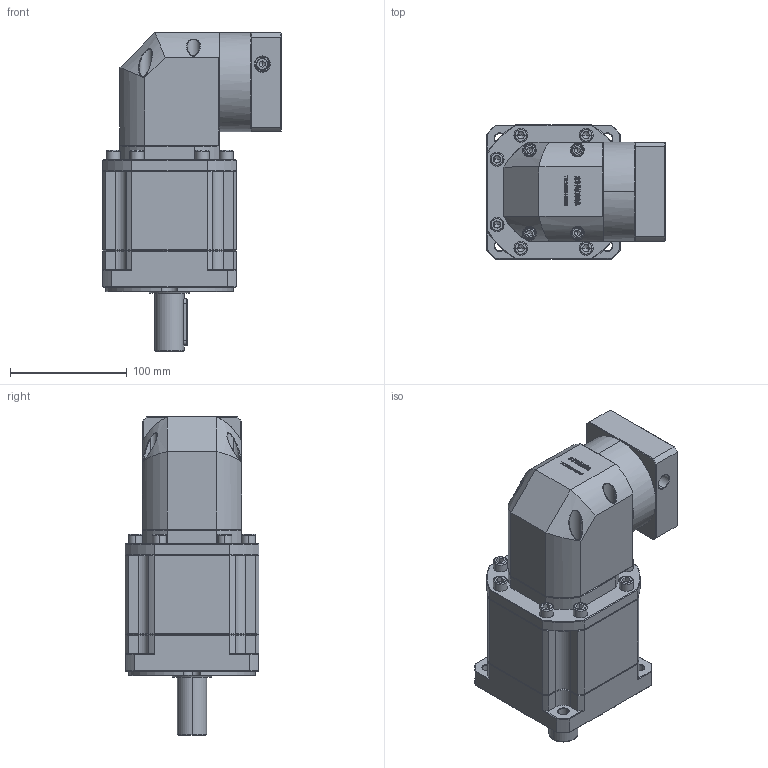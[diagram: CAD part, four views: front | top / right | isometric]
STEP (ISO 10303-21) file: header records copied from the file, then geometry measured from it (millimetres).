
FILE_DESCRIPTION (( 'STEP AP214' ), '1' );
FILE_NAME ('ZBR115A-D25-L3-19-80-100-M6.step', '2023-03-02T14:35:54', ( '' ), ( 'Microsoft' ), 'SwSTEP 2.0', 'SolidWorks 2016', '' );
FILE_SCHEMA (( 'AUTOMOTIVE_DESIGN' ));
Length unit declared in the file: millimetre
Products named in the file (1): ZBR115A-D25-L3-19-80-100-M6
Bounding box: 153.6 x 115 x 273.5 mm (x, y, z)
Volume: 2270849.4 mm3; surface area: 189331.6 mm2
Topology: 6 solids, 6 shells, 3201 faces, 8404 edges, 5356 vertices
Faces by surface type: plane 1699, bspline 633, cylinder 478, cone 377, torus 14
Entity records: 170897 total; most frequent: CARTESIAN_POINT 61916, ORIENTED_EDGE 16700, DIRECTION 12879, EDGE_CURVE 8350, LINE 5591, VECTOR 5591, VERTEX_POINT 5356, AXIS2_PLACEMENT_3D 3644
